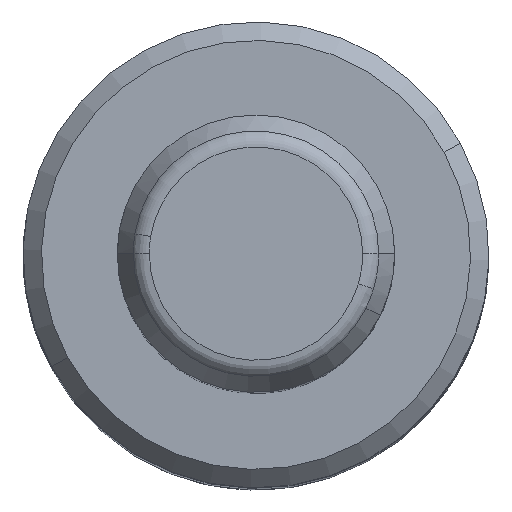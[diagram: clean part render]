
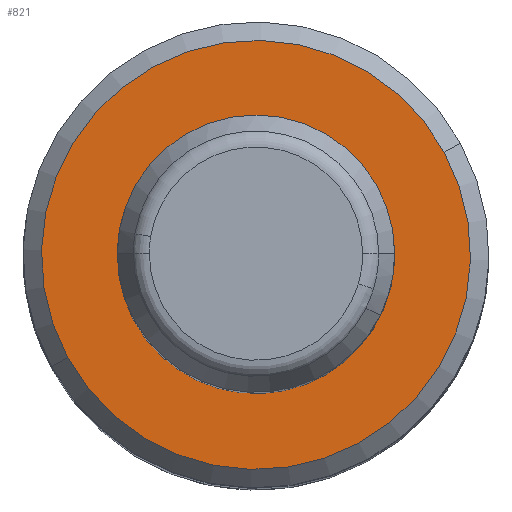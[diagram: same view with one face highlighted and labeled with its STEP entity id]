
A CAD part, top view. The second image highlights one B-rep face of the part: STEP entity #821.
In plain terms, the highlighted planar face has unit normal (0, 0, 1).
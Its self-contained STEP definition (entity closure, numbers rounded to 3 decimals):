
#769=CARTESIAN_POINT('Axis2P3D Location',(0.,0.,67.)) ;
#773=CARTESIAN_POINT('Vertex',(10.18,5.561,67.)) ;
#775=CARTESIAN_POINT('Vertex',(-10.18,-5.561,67.)) ;
#800=CARTESIAN_POINT('Axis2P3D Location',(0.,0.,67.)) ;
#812=CARTESIAN_POINT('Axis2P3D Location',(11.6,0.,67.)) ;
#770=DIRECTION('Axis2P3D Direction',(0.,0.,-1.)) ;
#801=DIRECTION('Axis2P3D Direction',(0.,0.,-1.)) ;
#813=DIRECTION('Axis2P3D Direction',(0.,0.,1.)) ;
#814=DIRECTION('Axis2P3D XDirection',(1.,0.,0.)) ;
#771=AXIS2_PLACEMENT_3D('Circle Axis2P3D',#769,#770,$) ;
#802=AXIS2_PLACEMENT_3D('Circle Axis2P3D',#800,#801,$) ;
#815=AXIS2_PLACEMENT_3D('Plane Axis2P3D',#812,#813,#814) ;
#818=ORIENTED_EDGE('',*,*,#777,.T.) ;
#819=ORIENTED_EDGE('',*,*,#804,.T.) ;
#821=ADVANCED_FACE('',(#820),#816,.T.) ;
#772=CIRCLE('generated circle',#771,11.6) ;
#803=CIRCLE('generated circle',#802,11.6) ;
#777=EDGE_CURVE('',#774,#776,#772,.F.) ;
#804=EDGE_CURVE('',#776,#774,#803,.F.) ;
#817=EDGE_LOOP('',(#818,#819)) ;
#820=FACE_OUTER_BOUND('',#817,.T.) ;
#816=PLANE('Plane',#815) ;
#774=VERTEX_POINT('',#773) ;
#776=VERTEX_POINT('',#775) ;
